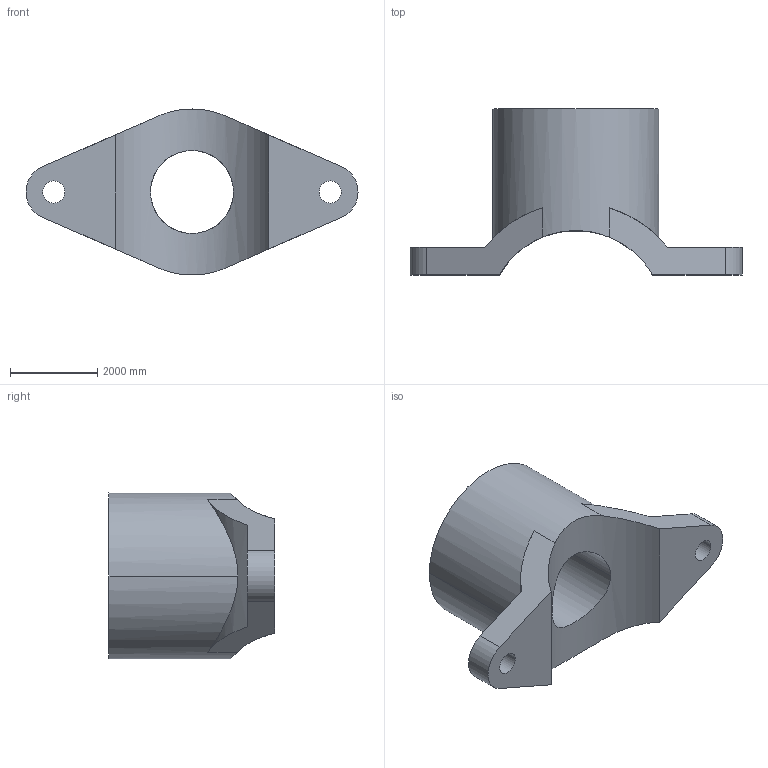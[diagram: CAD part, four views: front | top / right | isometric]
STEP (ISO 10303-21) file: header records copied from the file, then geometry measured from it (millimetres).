
FILE_DESCRIPTION((''),'2;1');
FILE_NAME('C06TUT04','2022-11-08T17:22:39',('Ashutosh-CADCIM'),(''),'CREO PARAMETRIC BY PTC INC, 2022073','CREO PARAMETRIC BY PTC INC, 2022073','');
FILE_SCHEMA(('CONFIG_CONTROL_DESIGN'));
Length unit declared in the file: inch
Products named in the file (1): C06TUT04
Bounding box: 7620 x 3810 x 3810 mm (x, y, z)
Volume: 30287506790.8 mm3; surface area: 96833161 mm2
Topology: 1 solids, 1 shells, 25 faces, 66 edges, 44 vertices
Faces by surface type: cylinder 15, plane 10
Entity records: 920 total; most frequent: CARTESIAN_POINT 255, ORIENTED_EDGE 132, DIRECTION 120, EDGE_CURVE 66, AXIS2_PLACEMENT_3D 45, VERTEX_POINT 44, EDGE_LOOP 32, VECTOR 30
